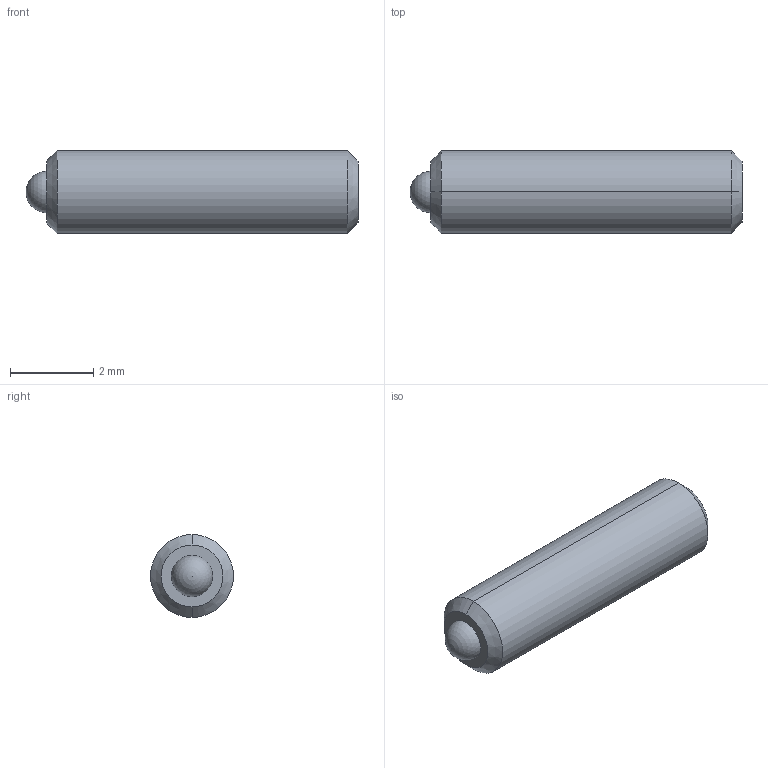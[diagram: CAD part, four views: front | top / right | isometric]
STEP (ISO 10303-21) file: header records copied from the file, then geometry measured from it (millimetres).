
FILE_DESCRIPTION (( 'STEP AP214' ), '1' );
FILE_NAME ('TS2-20-08.STEP', '2013-02-17T16:52:45', ( 'workpc' ), ( 'Microsoft' ), 'SwSTEP 2.0', 'SolidWorks 2013', '' );
FILE_SCHEMA (( 'AUTOMOTIVE_DESIGN' ));
Length unit declared in the file: millimetre
Products named in the file (1): TS2-20-08
Bounding box: 8 x 2 x 2 mm (x, y, z)
Volume: 21.9 mm3; surface area: 62.3 mm2
Topology: 2 solids, 2 shells, 20 faces, 45 edges, 29 vertices
Faces by surface type: plane 10, cylinder 4, cone 4, sphere 2
Entity records: 587 total; most frequent: DIRECTION 96, CARTESIAN_POINT 87, ORIENTED_EDGE 80, EDGE_CURVE 40, AXIS2_PLACEMENT_3D 35, VERTEX_POINT 26, LINE 26, VECTOR 26
